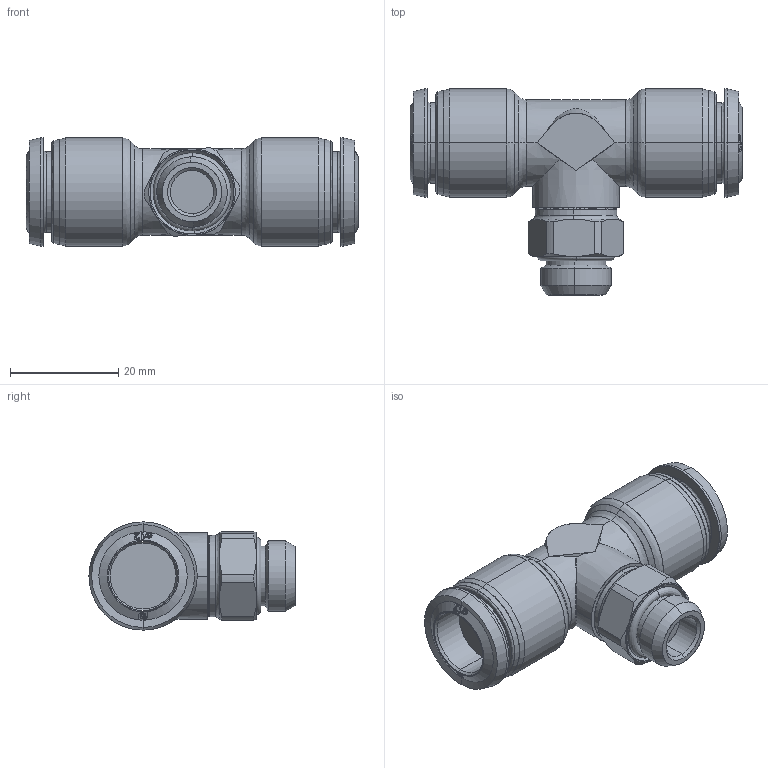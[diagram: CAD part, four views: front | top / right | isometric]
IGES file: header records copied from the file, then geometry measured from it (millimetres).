
Start section: SolidWorks IGES file using analytic representation for surfaces
Global section: file name: K:\Disegni Esecutivi\Serie 55000\ASSIEMI_55000\55216\ASSIEMI_PIENI_55216\55216000024.IGS; native system: SolidWorks 2007; preprocessor: SolidWorks 2007; author: cad02; date: 071127.171259; units: millimetre
Bounding box: 61.4 x 38.1 x 20 mm (x, y, z)
Surface area: 6889.7 mm2 (no closed solid volume)
Topology: 0 solids, 0 shells, 291 faces, 3108 edges, 3108 vertices
Faces by surface type: bspline 176, revolution 115
